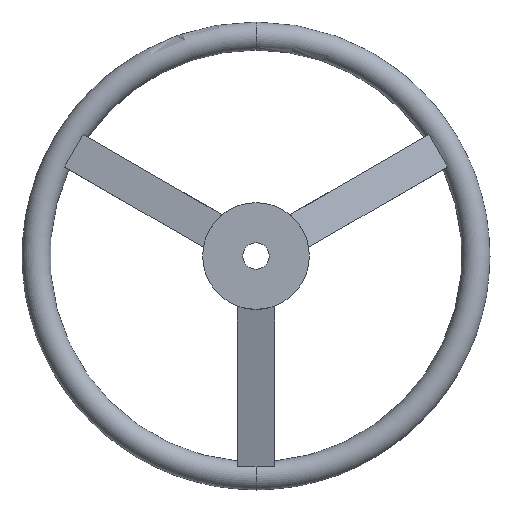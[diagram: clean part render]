
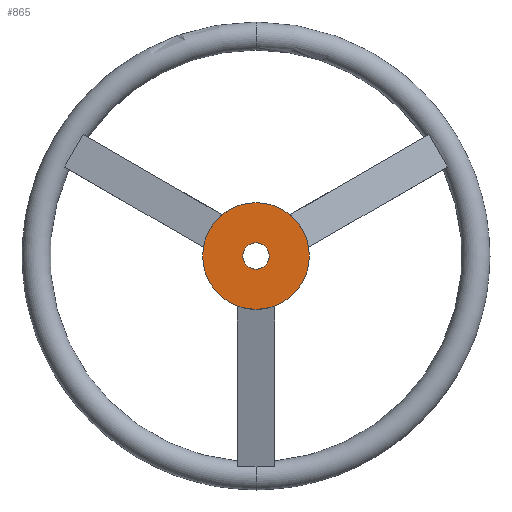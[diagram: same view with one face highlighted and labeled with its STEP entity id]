
A CAD part, front view. The second image highlights one B-rep face of the part: STEP entity #865.
In plain terms, the highlighted planar face has unit normal (0, -1, 0).
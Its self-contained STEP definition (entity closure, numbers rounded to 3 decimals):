
#95 = DIRECTION ( 'NONE',  ( 0., 1., 0. ) ) ;
#134 = ORIENTED_EDGE ( 'NONE', *, *, #360, .F. ) ;
#212 = CARTESIAN_POINT ( 'NONE',  ( 0., 0., 0. ) ) ;
#213 = DIRECTION ( 'NONE',  ( 0., 0., 1. ) ) ;
#264 = CARTESIAN_POINT ( 'NONE',  ( 0., 0., 0. ) ) ;
#283 = ORIENTED_EDGE ( 'NONE', *, *, #603, .F. ) ;
#289 = CARTESIAN_POINT ( 'NONE',  ( 0., 0., 0. ) ) ;
#293 = EDGE_CURVE ( 'NONE', #452, #770, #365, .T. ) ;
#303 = EDGE_LOOP ( 'NONE', ( #134, #283 ) ) ;
#308 = AXIS2_PLACEMENT_3D ( 'NONE', #212, #425, #514 ) ;
#344 = DIRECTION ( 'NONE',  ( 0., 1., 0. ) ) ;
#360 = EDGE_CURVE ( 'NONE', #775, #609, #675, .T. ) ;
#365 = CIRCLE ( 'NONE', #816, 7. ) ;
#377 = FACE_OUTER_BOUND ( 'NONE', #303, .T. ) ;
#386 = ORIENTED_EDGE ( 'NONE', *, *, #733, .F. ) ;
#425 = DIRECTION ( 'NONE',  ( 0., -1., 0. ) ) ;
#452 = VERTEX_POINT ( 'NONE', #828 ) ;
#475 = AXIS2_PLACEMENT_3D ( 'NONE', #289, #581, #213 ) ;
#488 = DIRECTION ( 'NONE',  ( 0., 0., 1. ) ) ;
#497 = ORIENTED_EDGE ( 'NONE', *, *, #293, .F. ) ;
#502 = CARTESIAN_POINT ( 'NONE',  ( 0., 0., -28.5 ) ) ;
#514 = DIRECTION ( 'NONE',  ( 0., 0., 1. ) ) ;
#526 = FACE_BOUND ( 'NONE', #939, .T. ) ;
#553 = AXIS2_PLACEMENT_3D ( 'NONE', #264, #344, #488 ) ;
#554 = AXIS2_PLACEMENT_3D ( 'NONE', #672, #95, #679 ) ;
#581 = DIRECTION ( 'NONE',  ( 0., 1., 0. ) ) ;
#594 = CARTESIAN_POINT ( 'NONE',  ( 0., 0., 0. ) ) ;
#603 = EDGE_CURVE ( 'NONE', #609, #775, #834, .T. ) ;
#609 = VERTEX_POINT ( 'NONE', #773 ) ;
#650 = DIRECTION ( 'NONE',  ( 0., 0., 1. ) ) ;
#663 = CARTESIAN_POINT ( 'NONE',  ( 0., 0., -7. ) ) ;
#672 = CARTESIAN_POINT ( 'NONE',  ( 0., 0., 0. ) ) ;
#675 = CIRCLE ( 'NONE', #475, 28.5 ) ;
#679 = DIRECTION ( 'NONE',  ( 0., 0., 1. ) ) ;
#722 = CIRCLE ( 'NONE', #308, 7. ) ;
#733 = EDGE_CURVE ( 'NONE', #770, #452, #722, .T. ) ;
#770 = VERTEX_POINT ( 'NONE', #663 ) ;
#773 = CARTESIAN_POINT ( 'NONE',  ( 0., 0., 28.5 ) ) ;
#775 = VERTEX_POINT ( 'NONE', #502 ) ;
#816 = AXIS2_PLACEMENT_3D ( 'NONE', #594, #886, #650 ) ;
#822 = PLANE ( 'NONE',  #554 ) ;
#828 = CARTESIAN_POINT ( 'NONE',  ( 0., 0., 7. ) ) ;
#834 = CIRCLE ( 'NONE', #553, 28.5 ) ;
#865 = ADVANCED_FACE ( 'NONE', ( #526, #377 ), #822, .F. ) ;
#886 = DIRECTION ( 'NONE',  ( 0., -1., 0. ) ) ;
#939 = EDGE_LOOP ( 'NONE', ( #497, #386 ) ) ;
